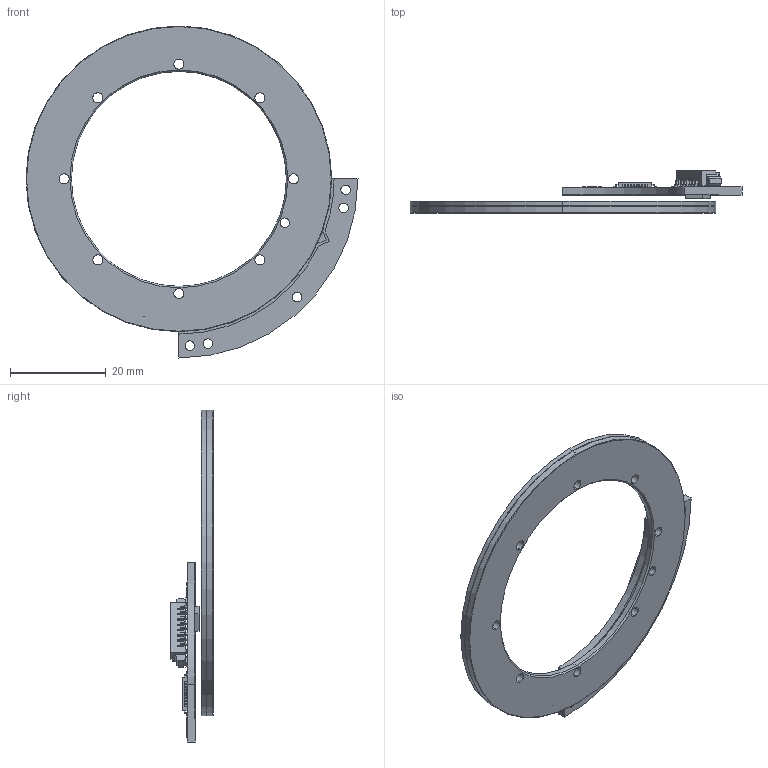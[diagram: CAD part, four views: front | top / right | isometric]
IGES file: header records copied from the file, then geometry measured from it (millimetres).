
Start section: SolidWorks IGES file using analytic representation for surfaces
Global section: file name: C:\Users\Administrator\Desktop\埻唳蜊\45\eCoder45.IGS,15; native system: HSolidWorks 2021; preprocessor: SolidWorks 2021; author: ZERO; date: 221228.174519; units: millimetre
Bounding box: 69.5 x 8.95 x 69.5 mm (x, y, z)
Volume: 4671.8 mm3; surface area: 8392.1 mm2
Topology: 4 solids, 4 shells, 957 faces, 2492 edges, 1598 vertices
Faces by surface type: plane 743, revolution 212, bspline 2
